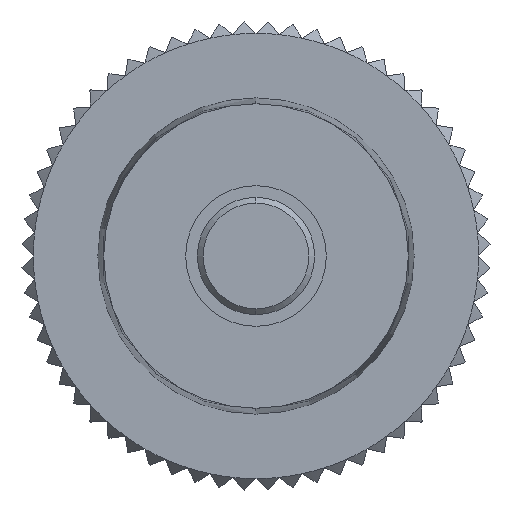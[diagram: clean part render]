
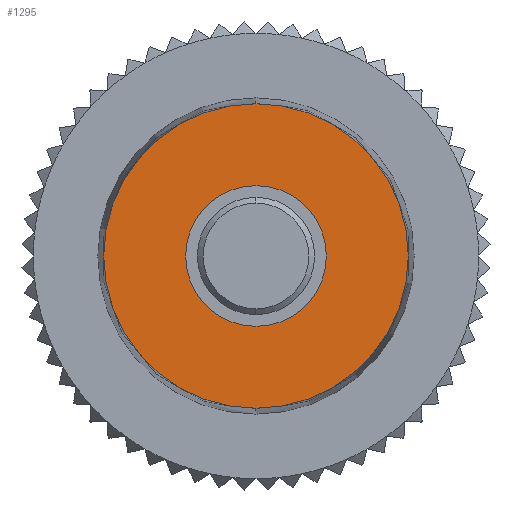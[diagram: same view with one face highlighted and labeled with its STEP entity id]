
A CAD part, front view. The second image highlights one B-rep face of the part: STEP entity #1295.
In plain terms, the highlighted planar face has unit normal (0, -1, 0).
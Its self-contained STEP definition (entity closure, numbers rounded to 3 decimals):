
#215 = VERTEX_POINT ( 'NONE', #3032 ) ;
#255 = EDGE_CURVE ( 'NONE', #257, #215, #3152, .T. ) ;
#257 = VERTEX_POINT ( 'NONE', #3147 ) ;
#1295 = ADVANCED_FACE ( 'NONE', ( #5357, #5349 ), #5348, .T. ) ;
#1296 = EDGE_LOOP ( 'NONE', ( #1352, #1354 ) ) ;
#1352 = ORIENTED_EDGE ( 'NONE', *, *, #1353, .F. ) ;
#1353 = EDGE_CURVE ( 'NONE', #215, #257, #5468, .T. ) ;
#1354 = ORIENTED_EDGE ( 'NONE', *, *, #255, .F. ) ;
#1355 = EDGE_LOOP ( 'NONE', ( #1356, #1358 ) ) ;
#1356 = ORIENTED_EDGE ( 'NONE', *, *, #1357, .T. ) ;
#1357 = EDGE_CURVE ( 'NONE', #8360, #8352, #5464, .T. ) ;
#1358 = ORIENTED_EDGE ( 'NONE', *, *, #8356, .T. ) ;
#3032 = CARTESIAN_POINT ( 'NONE',  ( 0., 0., -3. ) ) ;
#3147 = CARTESIAN_POINT ( 'NONE',  ( 0., 0., 3. ) ) ;
#3148 = DIRECTION ( 'NONE',  ( 0., 0., -1. ) ) ;
#3149 = DIRECTION ( 'NONE',  ( 0., -1., 0. ) ) ;
#3150 = CARTESIAN_POINT ( 'NONE',  ( 0., 0., 0. ) ) ;
#3151 = AXIS2_PLACEMENT_3D ( 'NONE', #3150, #3149, #3148 ) ;
#3152 = CIRCLE ( 'NONE', #3151, 3. ) ;
#5125 = DIRECTION ( 'NONE',  ( 0., 0., -1. ) ) ;
#5126 = DIRECTION ( 'NONE',  ( 0., -1., 0. ) ) ;
#5346 = CARTESIAN_POINT ( 'NONE',  ( 0., 0., 0. ) ) ;
#5347 = AXIS2_PLACEMENT_3D ( 'NONE', #5346, #5126, #5125 ) ;
#5348 = PLANE ( 'NONE',  #5347 ) ;
#5349 = FACE_OUTER_BOUND ( 'NONE', #1355, .T. ) ;
#5357 = FACE_BOUND ( 'NONE', #1296, .T. ) ;
#5460 = DIRECTION ( 'NONE',  ( 0., 0., -1. ) ) ;
#5461 = DIRECTION ( 'NONE',  ( 0., -1., 0. ) ) ;
#5462 = CARTESIAN_POINT ( 'NONE',  ( 0., 0., 0. ) ) ;
#5463 = AXIS2_PLACEMENT_3D ( 'NONE', #5462, #5461, #5460 ) ;
#5464 = CIRCLE ( 'NONE', #5463, 6.5 ) ;
#5465 = DIRECTION ( 'NONE',  ( 0., 0., -1. ) ) ;
#5466 = DIRECTION ( 'NONE',  ( 0., -1., 0. ) ) ;
#5467 = AXIS2_PLACEMENT_3D ( 'NONE', #5474, #5466, #5465 ) ;
#5468 = CIRCLE ( 'NONE', #5467, 3. ) ;
#5474 = CARTESIAN_POINT ( 'NONE',  ( 0., 0., 0. ) ) ;
#7323 = CARTESIAN_POINT ( 'NONE',  ( 0., 0., 6.5 ) ) ;
#7325 = DIRECTION ( 'NONE',  ( 0., 0., -1. ) ) ;
#7326 = DIRECTION ( 'NONE',  ( 0., -1., 0. ) ) ;
#7327 = CARTESIAN_POINT ( 'NONE',  ( 0., 0., 0. ) ) ;
#7328 = AXIS2_PLACEMENT_3D ( 'NONE', #7327, #7326, #7325 ) ;
#7329 = CIRCLE ( 'NONE', #7328, 6.5 ) ;
#7336 = CARTESIAN_POINT ( 'NONE',  ( 0., 0., -6.5 ) ) ;
#8352 = VERTEX_POINT ( 'NONE', #7336 ) ;
#8356 = EDGE_CURVE ( 'NONE', #8352, #8360, #7329, .T. ) ;
#8360 = VERTEX_POINT ( 'NONE', #7323 ) ;
